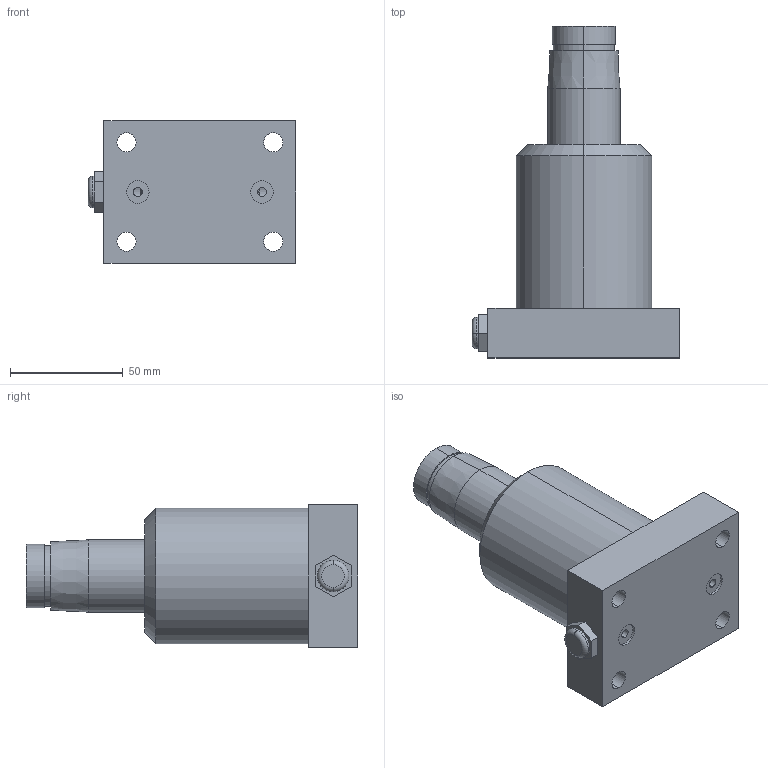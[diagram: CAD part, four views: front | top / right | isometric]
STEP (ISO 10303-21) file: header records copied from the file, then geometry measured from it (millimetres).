
FILE_DESCRIPTION (( 'STEP AP214' ), '1' );
FILE_NAME ('#HPS-40SB.STEP', '2021-10-18T02:01:13', ( '' ), ( '' ), 'SwSTEP 2.0', 'SolidWorks 2016', '' );
FILE_SCHEMA (( 'AUTOMOTIVE_DESIGN' ));
Length unit declared in the file: millimetre
Products named in the file (1): #HPS-40SB
Bounding box: 92 x 147 x 63 mm (x, y, z)
Volume: 352202.3 mm3; surface area: 39180.1 mm2
Topology: 1 solids, 1 shells, 63 faces, 152 edges, 96 vertices
Faces by surface type: cylinder 30, plane 23, cone 8, torus 2
Entity records: 2042 total; most frequent: CARTESIAN_POINT 406, DIRECTION 332, ORIENTED_EDGE 296, EDGE_CURVE 148, AXIS2_PLACEMENT_3D 132, VERTEX_POINT 96, EDGE_LOOP 82, CIRCLE 68
